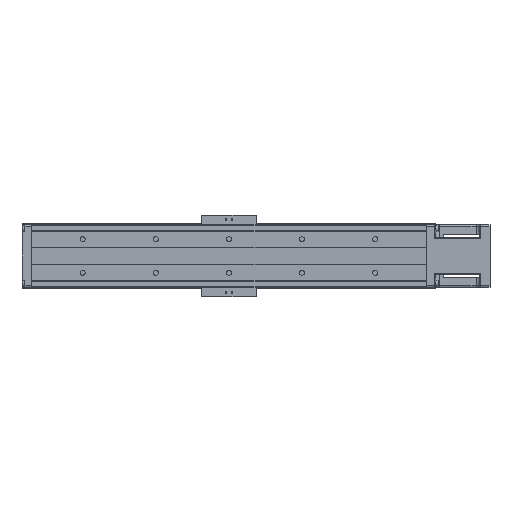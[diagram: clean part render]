
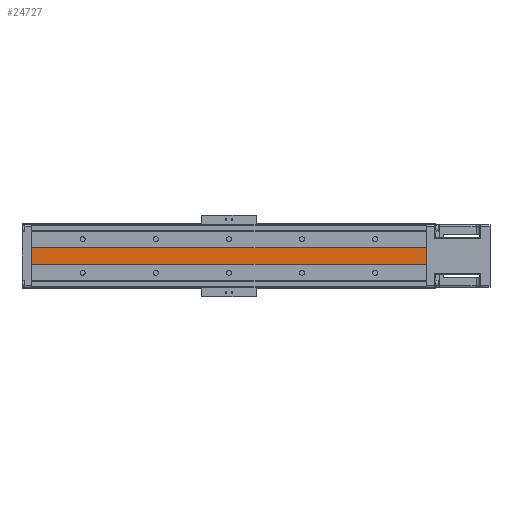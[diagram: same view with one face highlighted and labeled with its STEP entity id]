
A CAD part, front view. The second image highlights one B-rep face of the part: STEP entity #24727.
In plain terms, the highlighted planar face has unit normal (0, -1, 0).
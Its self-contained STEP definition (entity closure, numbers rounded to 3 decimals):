
#1951 = VERTEX_POINT ( 'NONE', #4943 ) ;
#2945 = DIRECTION ( 'NONE',  ( 0., 0., -1. ) ) ;
#3295 = EDGE_CURVE ( 'NONE', #34835, #1951, #7567, .T. ) ;
#4943 = CARTESIAN_POINT ( 'NONE',  ( 220., -31.5, 11. ) ) ;
#6446 = LINE ( 'NONE', #30384, #13375 ) ;
#7567 = LINE ( 'NONE', #38041, #14507 ) ;
#8633 = VECTOR ( 'NONE', #2945, 1000. ) ;
#8677 = ORIENTED_EDGE ( 'NONE', *, *, #17297, .T. ) ;
#10521 = CARTESIAN_POINT ( 'NONE',  ( -320., -31.5, -11. ) ) ;
#10682 = EDGE_CURVE ( 'NONE', #1951, #12818, #18380, .T. ) ;
#12818 = VERTEX_POINT ( 'NONE', #15608 ) ;
#13375 = VECTOR ( 'NONE', #33241, 1000. ) ;
#14507 = VECTOR ( 'NONE', #38272, 1000. ) ;
#14524 = LINE ( 'NONE', #16252, #38213 ) ;
#15608 = CARTESIAN_POINT ( 'NONE',  ( 220., -31.5, -11. ) ) ;
#16252 = CARTESIAN_POINT ( 'NONE',  ( -320., -31.5, -5.5 ) ) ;
#17297 = EDGE_CURVE ( 'NONE', #24811, #12818, #6446, .T. ) ;
#17462 = CARTESIAN_POINT ( 'NONE',  ( 220., -31.5, 11. ) ) ;
#17609 = FACE_OUTER_BOUND ( 'NONE', #37813, .T. ) ;
#18380 = LINE ( 'NONE', #17462, #8633 ) ;
#18569 = DIRECTION ( 'NONE',  ( 0., -1., 0. ) ) ;
#18812 = AXIS2_PLACEMENT_3D ( 'NONE', #18958, #18569, #21551 ) ;
#18958 = CARTESIAN_POINT ( 'NONE',  ( 220., -31.5, -11. ) ) ;
#19472 = ORIENTED_EDGE ( 'NONE', *, *, #10682, .F. ) ;
#21551 = DIRECTION ( 'NONE',  ( -1., 0., 0. ) ) ;
#24682 = PLANE ( 'NONE',  #18812 ) ;
#24727 = ADVANCED_FACE ( 'NONE', ( #17609 ), #24682, .T. ) ;
#24811 = VERTEX_POINT ( 'NONE', #10521 ) ;
#25231 = CARTESIAN_POINT ( 'NONE',  ( -320., -31.5, 11. ) ) ;
#26189 = ORIENTED_EDGE ( 'NONE', *, *, #3295, .F. ) ;
#28216 = DIRECTION ( 'NONE',  ( 0., 0., -1. ) ) ;
#28390 = ORIENTED_EDGE ( 'NONE', *, *, #29159, .T. ) ;
#29159 = EDGE_CURVE ( 'NONE', #34835, #24811, #14524, .T. ) ;
#30384 = CARTESIAN_POINT ( 'NONE',  ( -520., -31.5, -11. ) ) ;
#33241 = DIRECTION ( 'NONE',  ( 1., 0., 0. ) ) ;
#34835 = VERTEX_POINT ( 'NONE', #25231 ) ;
#37813 = EDGE_LOOP ( 'NONE', ( #28390, #8677, #19472, #26189 ) ) ;
#38041 = CARTESIAN_POINT ( 'NONE',  ( -520., -31.5, 11. ) ) ;
#38213 = VECTOR ( 'NONE', #28216, 1000. ) ;
#38272 = DIRECTION ( 'NONE',  ( 1., 0., 0. ) ) ;
